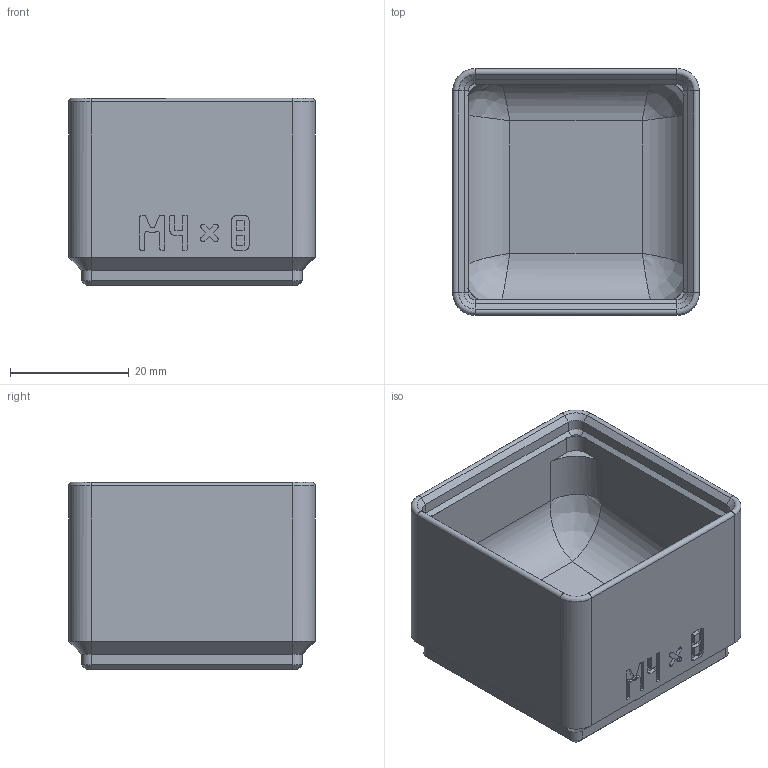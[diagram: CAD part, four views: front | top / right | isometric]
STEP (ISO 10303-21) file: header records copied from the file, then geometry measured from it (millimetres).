
FILE_DESCRIPTION(('Open CASCADE Model'),'2;1');
FILE_NAME('Open CASCADE Shape Model','2026-11-03T17:57:51',('Author'),( 'Open CASCADE'),'Open CASCADE STEP processor 8.0','build123d', 'Unknown');
FILE_SCHEMA(('AUTOMOTIVE_DESIGN { 1 0 10303 214 1 1 1 1 }'));
Length unit declared in the file: millimetre
Products named in the file (1): COMPOUND
Bounding box: 41.5 x 41.5 x 31.55 mm (x, y, z)
Volume: 18953.6 mm3; surface area: 11330.6 mm2
Topology: 1 solids, 1 shells, 479 faces, 1325 edges, 850 vertices
Faces by surface type: plane 415, cylinder 36, cone 20, bspline 8
Entity records: 33802 total; most frequent: CARTESIAN_POINT 8905, DIRECTION 4071, LINE 2997, VECTOR 2997, ORIENTED_EDGE 2642, PCURVE 2642, DEFINITIONAL_REPRESENTATION 2642, EDGE_CURVE 1321
